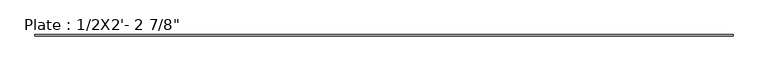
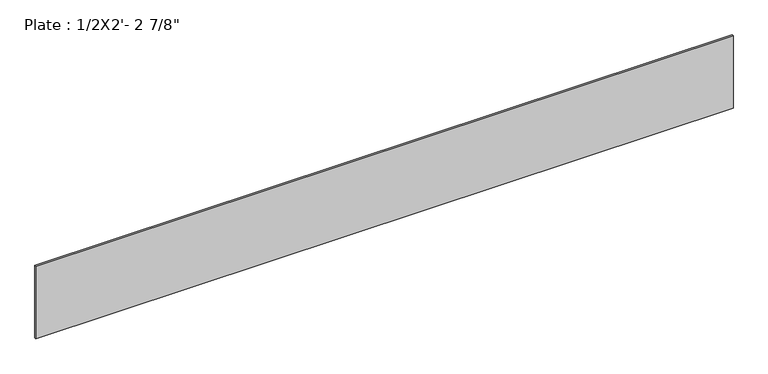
"""IFC4 building model written with IfcOpenShell, lengths in millimetres: beam geometry."""

from ifc_helpers import new_model, si_unit, frame, origin, place, context, project, spatial, polyline, outline, extrude, source, transform, mapped, element, save


def beam_ecc97861(model_context):
    return source(origin(), model_context, "Body", "SweptSolid", [
        extrude(outline(polyline([(3376.3160331, 6.35), (3376.3160331, -6.35), (-2830.8089669, -6.35), (-2830.8089669, 6.35), (3376.3160331, 6.35)])), frame((0.0, 0.0, -341.3125), z_axis=(0.0, 0.0, 1.0), x_axis=(1.0, 0.0, 0.0)), (0.0, 0.0, 1.0), 682.625),
    ])


if __name__ == "__main__":
    model = new_model("IFC4")
    model_context = context("Model", 3, world=origin())
    ifc_project = project(units=[si_unit("LENGTHUNIT", "METRE", prefix="MILLI")], contexts=[model_context])
    site = spatial("IfcSite", under=ifc_project)
    building = spatial("IfcBuilding", under=site)
    placement = place(None, origin())
    beam_shape = beam_ecc97861(model_context)
    element("IfcBeam", 1, ObjectType="Plate : 1/2X2'- 2 7/8\"", at=placement, inside=building, context=model_context, shape_type="MappedRepresentation", body=[
        mapped(beam_shape, transform((0.0, 0.0, 0.0), x_axis=(1.0, 0.0, 0.0), y_axis=(0.0, 1.0, 0.0), z_axis=(0.0, 0.0, 1.0))),
    ])
    save(model, "model.ifc")
